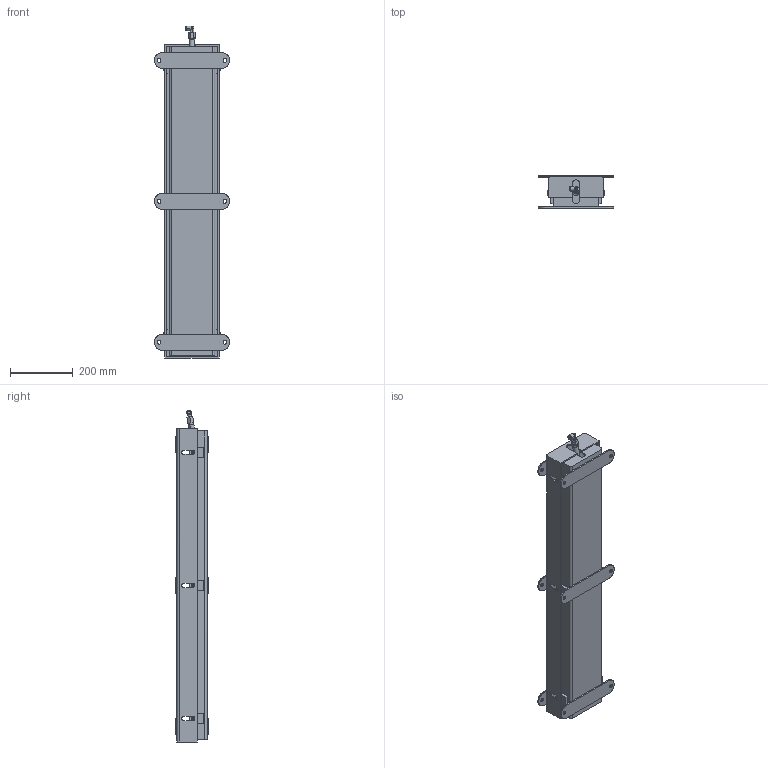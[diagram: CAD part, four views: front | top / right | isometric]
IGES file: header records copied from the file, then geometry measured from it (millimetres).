
Start section: 3D InterOp IGES (Version 21 0 2), Spatial Corp. Copyright (c) 1999-2007.
Global section: file name: ALB-WB-1000_H.igs; native system: Spatial Corp.; preprocessor: 3D InterOp GENERIC/IGES 3.0; author: Noname; organization: Noname; date: 20130315.165007; units: millimetre
Bounding box: 240 x 105 x 1060 mm (x, y, z)
Surface area: 1335091.5 mm2 (no closed solid volume)
Topology: 0 solids, 0 shells, 385 faces, 2292 edges, 2276 vertices
Faces by surface type: bspline 385
